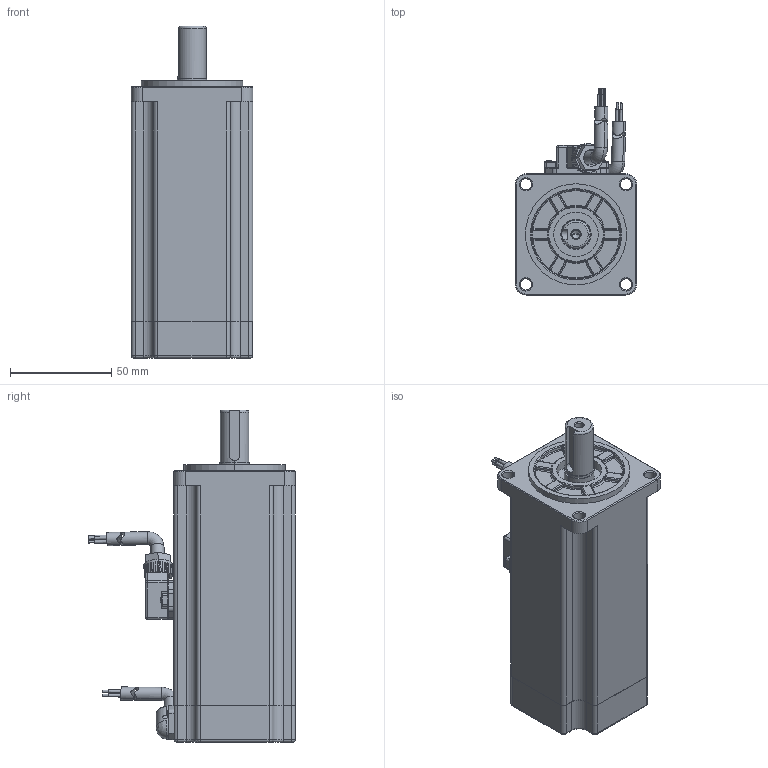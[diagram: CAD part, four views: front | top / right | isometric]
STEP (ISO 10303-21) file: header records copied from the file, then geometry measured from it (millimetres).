
FILE_DESCRIPTION (( 'STEP AP214' ), '1' );
FILE_NAME ('RSHA-M06J1330A-Z.STEP', '2021-09-27T01:53:14', ( 'User' ), ( 'Microsoft' ), 'SwSTEP 2.0', 'SolidWorks 2018', '' );
FILE_SCHEMA (( 'AUTOMOTIVE_DESIGN' ));
Length unit declared in the file: millimetre
Products named in the file (10): __________B.STEP; HN5J-106A.STEP; HN5J-106C.STEP; 400W________L=134mm.STEP; RSHA-M06J1330A-Z; GB__T818-2000______________M2__5__5.STEP; 604-60#詢揤220V 400W 价陬萇儂L=134mm.STEP; 1000W堤盄2漆睽.step; ______.STEP; __________.STEP
Assembly tree (13 placements, depth 4):
  RSHA-M06J1330A-Z
    604-60#詢揤220V 400W 价陬萇儂L=134mm.STEP
      __________.STEP
        HN5J-106C.STEP
        ______.STEP
        GB__T818-2000______________M2__5__5.STEP  x2
      __________B.STEP
        ______.STEP
        HN5J-106A.STEP
        GB__T818-2000______________M2__5__5.STEP  x2
      400W________L=134mm.STEP
    1000W堤盄2漆睽.step
Bounding box: 60 x 102.09 x 164 mm (x, y, z)
Volume: 437438.5 mm3; surface area: 47120.6 mm2
Topology: 10 solids, 16 shells, 966 faces, 2336 edges, 1368 vertices
Faces by surface type: cylinder 323, plane 285, bspline 169, torus 108, sphere 41, cone 40
Entity records: 36319 total; most frequent: CARTESIAN_POINT 18195, ORIENTED_EDGE 4032, DIRECTION 3278, EDGE_CURVE 2023, AXIS2_PLACEMENT_3D 1408, VERTEX_POINT 1221, EDGE_LOOP 884, FACE_OUTER_BOUND 844
